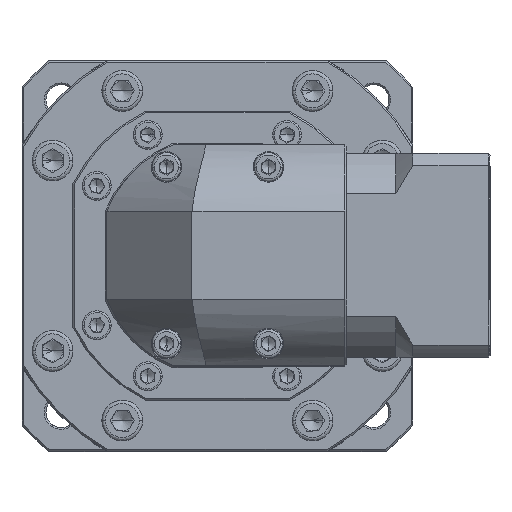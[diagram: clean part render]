
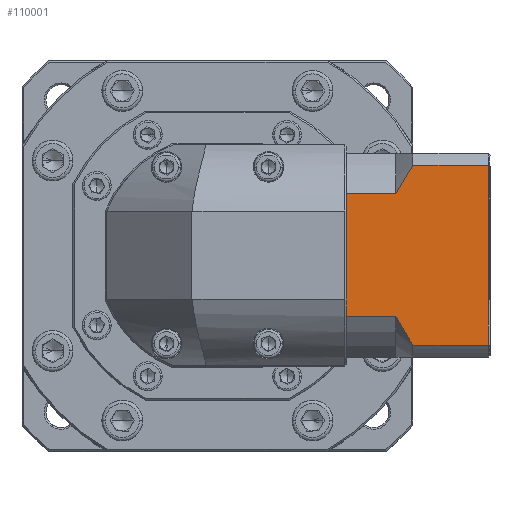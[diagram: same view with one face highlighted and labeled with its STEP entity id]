
A CAD part, top view. The second image highlights one B-rep face of the part: STEP entity #110001.
In plain terms, the highlighted planar face has unit normal (0, 0, 1).
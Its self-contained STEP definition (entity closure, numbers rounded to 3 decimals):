
#1692 = VERTEX_POINT ( 'NONE', #113639 ) ;
#2796 = VERTEX_POINT ( 'NONE', #115514 ) ;
#3555 = VERTEX_POINT ( 'NONE', #60279 ) ;
#3937 = ORIENTED_EDGE ( 'NONE', *, *, #50980, .F. ) ;
#9174 = ORIENTED_EDGE ( 'NONE', *, *, #19530, .T. ) ;
#12700 = VERTEX_POINT ( 'NONE', #115630 ) ;
#12982 = CARTESIAN_POINT ( 'NONE',  ( 109.675, 76.309, 12.482 ) ) ;
#13521 = CARTESIAN_POINT ( 'NONE',  ( 114.675, 67.879, 12.482 ) ) ;
#15542 = AXIS2_PLACEMENT_3D ( 'NONE', #94716, #107513, #93614 ) ;
#18863 = FACE_OUTER_BOUND ( 'NONE', #132186, .T. ) ;
#19530 = EDGE_CURVE ( 'NONE', #85571, #159178, #40605, .T. ) ;
#20647 = CARTESIAN_POINT ( 'NONE',  ( 114.675, 120.794, 12.482 ) ) ;
#20666 = CARTESIAN_POINT ( 'NONE',  ( 112.903, 118.055, 12.482 ) ) ;
#21050 = VERTEX_POINT ( 'NONE', #100844 ) ;
#21207 = CARTESIAN_POINT ( 'NONE',  ( 109.675, 67.879, 12.482 ) ) ;
#21545 = VECTOR ( 'NONE', #69122, 1000. ) ;
#24014 = ORIENTED_EDGE ( 'NONE', *, *, #156204, .T. ) ;
#24175 = ORIENTED_EDGE ( 'NONE', *, *, #69599, .T. ) ;
#36671 = DIRECTION ( 'NONE',  ( -1., 0., 0. ) ) ;
#39033 = CARTESIAN_POINT ( 'NONE',  ( 109.675, 112.364, 12.482 ) ) ;
#40605 = B_SPLINE_CURVE_WITH_KNOTS ( 'NONE', 3,
 ( #136549, #161688, #20666, #109880, #97648, #98185 ),
 .UNSPECIFIED., .F., .F.,
 ( 4, 2, 4 ),
 ( 0.052, 0.057, 0.062 ),
 .UNSPECIFIED. ) ;
#41398 = DIRECTION ( 'NONE',  ( 0., -1., 0. ) ) ;
#43906 = VECTOR ( 'NONE', #76501, 1000. ) ;
#43910 = LINE ( 'NONE', #124789, #67740 ) ;
#48532 = VECTOR ( 'NONE', #41398, 1000. ) ;
#50256 = CARTESIAN_POINT ( 'NONE',  ( 95.175, 124.337, 12.482 ) ) ;
#50980 = EDGE_CURVE ( 'NONE', #3555, #12700, #95712, .T. ) ;
#51001 = ORIENTED_EDGE ( 'NONE', *, *, #127795, .T. ) ;
#51837 = ORIENTED_EDGE ( 'NONE', *, *, #163707, .F. ) ;
#53637 = CARTESIAN_POINT ( 'NONE',  ( 95.175, 124.337, 12.482 ) ) ;
#55212 = B_SPLINE_CURVE_WITH_KNOTS ( 'NONE', 3,
 ( #12982, #91554, #140560, #153384, #77049, #13521 ),
 .UNSPECIFIED., .F., .F.,
 ( 4, 2, 4 ),
 ( 0.1, 0.104, 0.109 ),
 .UNSPECIFIED. ) ;
#55328 = CARTESIAN_POINT ( 'NONE',  ( 109.675, 112.364, 12.482 ) ) ;
#60218 = DIRECTION ( 'NONE',  ( -1., 0., 0. ) ) ;
#60279 = CARTESIAN_POINT ( 'NONE',  ( 136.875, 67.879, 12.482 ) ) ;
#64549 = CARTESIAN_POINT ( 'NONE',  ( 136.875, 124.337, 12.482 ) ) ;
#66696 = ORIENTED_EDGE ( 'NONE', *, *, #161031, .T. ) ;
#67740 = VECTOR ( 'NONE', #36671, 1000. ) ;
#69122 = DIRECTION ( 'NONE',  ( 0., -1., 0. ) ) ;
#69599 = EDGE_CURVE ( 'NONE', #2796, #12700, #55212, .T. ) ;
#73389 = LINE ( 'NONE', #133740, #21545 ) ;
#76501 = DIRECTION ( 'NONE',  ( 0., -1., 0. ) ) ;
#77049 = CARTESIAN_POINT ( 'NONE',  ( 113.774, 69.242, 12.482 ) ) ;
#77318 = VECTOR ( 'NONE', #79578, 1000. ) ;
#77912 = LINE ( 'NONE', #64549, #103664 ) ;
#79578 = DIRECTION ( 'NONE',  ( 1., 0., 0. ) ) ;
#79940 = EDGE_CURVE ( 'NONE', #85571, #1692, #141097, .T. ) ;
#80271 = DIRECTION ( 'NONE',  ( 1., 0., 0. ) ) ;
#82917 = EDGE_CURVE ( 'NONE', #2796, #124132, #43910, .T. ) ;
#85571 = VERTEX_POINT ( 'NONE', #20647 ) ;
#87118 = CARTESIAN_POINT ( 'NONE',  ( 95.175, 112.364, 12.482 ) ) ;
#89794 = VECTOR ( 'NONE', #60218, 1000. ) ;
#90860 = PLANE ( 'NONE',  #15542 ) ;
#91554 = CARTESIAN_POINT ( 'NONE',  ( 110.426, 74.852, 12.482 ) ) ;
#92617 = CARTESIAN_POINT ( 'NONE',  ( 95.175, 76.309, 12.482 ) ) ;
#93614 = DIRECTION ( 'NONE',  ( 1., 0., 0. ) ) ;
#94716 = CARTESIAN_POINT ( 'NONE',  ( 137.375, 124.337, 12.482 ) ) ;
#95712 = LINE ( 'NONE', #21207, #89794 ) ;
#97648 = CARTESIAN_POINT ( 'NONE',  ( 110.423, 113.816, 12.482 ) ) ;
#98185 = CARTESIAN_POINT ( 'NONE',  ( 109.675, 112.364, 12.482 ) ) ;
#98475 = LINE ( 'NONE', #53637, #48532 ) ;
#99859 = CARTESIAN_POINT ( 'NONE',  ( 95.175, 111.373, 12.482 ) ) ;
#100844 = CARTESIAN_POINT ( 'NONE',  ( 95.175, 77.3, 12.482 ) ) ;
#103212 = ORIENTED_EDGE ( 'NONE', *, *, #129907, .T. ) ;
#103591 = CARTESIAN_POINT ( 'NONE',  ( 109.675, 120.794, 12.482 ) ) ;
#103664 = VECTOR ( 'NONE', #126499, 1000. ) ;
#107513 = DIRECTION ( 'NONE',  ( 0., 0., -1. ) ) ;
#108438 = ORIENTED_EDGE ( 'NONE', *, *, #82917, .F. ) ;
#109880 = CARTESIAN_POINT ( 'NONE',  ( 111.227, 115.248, 12.482 ) ) ;
#110001 = ADVANCED_FACE ( 'NONE', ( #18863 ), #90860, .F. ) ;
#111470 = VERTEX_POINT ( 'NONE', #99859 ) ;
#113639 = CARTESIAN_POINT ( 'NONE',  ( 136.875, 120.794, 12.482 ) ) ;
#115514 = CARTESIAN_POINT ( 'NONE',  ( 109.675, 76.309, 12.482 ) ) ;
#115630 = CARTESIAN_POINT ( 'NONE',  ( 114.675, 67.879, 12.482 ) ) ;
#122014 = VECTOR ( 'NONE', #80271, 1000. ) ;
#123831 = VERTEX_POINT ( 'NONE', #87118 ) ;
#124132 = VERTEX_POINT ( 'NONE', #92617 ) ;
#124789 = CARTESIAN_POINT ( 'NONE',  ( 109.675, 76.309, 12.482 ) ) ;
#126499 = DIRECTION ( 'NONE',  ( 0., 1., 0. ) ) ;
#127795 = EDGE_CURVE ( 'NONE', #111470, #21050, #98475, .T. ) ;
#128124 = LINE ( 'NONE', #39033, #122014 ) ;
#129652 = LINE ( 'NONE', #50256, #43906 ) ;
#129907 = EDGE_CURVE ( 'NONE', #21050, #124132, #73389, .T. ) ;
#130416 = ORIENTED_EDGE ( 'NONE', *, *, #79940, .F. ) ;
#132186 = EDGE_LOOP ( 'NONE', ( #3937, #66696, #130416, #9174, #51837, #24014, #51001, #103212, #108438, #24175 ) ) ;
#133740 = CARTESIAN_POINT ( 'NONE',  ( 95.175, 124.337, 12.482 ) ) ;
#136549 = CARTESIAN_POINT ( 'NONE',  ( 114.675, 120.794, 12.482 ) ) ;
#140560 = CARTESIAN_POINT ( 'NONE',  ( 111.226, 73.427, 12.482 ) ) ;
#141097 = LINE ( 'NONE', #103591, #77318 ) ;
#153384 = CARTESIAN_POINT ( 'NONE',  ( 112.9, 70.622, 12.482 ) ) ;
#156204 = EDGE_CURVE ( 'NONE', #123831, #111470, #129652, .T. ) ;
#159178 = VERTEX_POINT ( 'NONE', #55328 ) ;
#161031 = EDGE_CURVE ( 'NONE', #3555, #1692, #77912, .T. ) ;
#161688 = CARTESIAN_POINT ( 'NONE',  ( 113.776, 119.434, 12.482 ) ) ;
#163707 = EDGE_CURVE ( 'NONE', #123831, #159178, #128124, .T. ) ;
